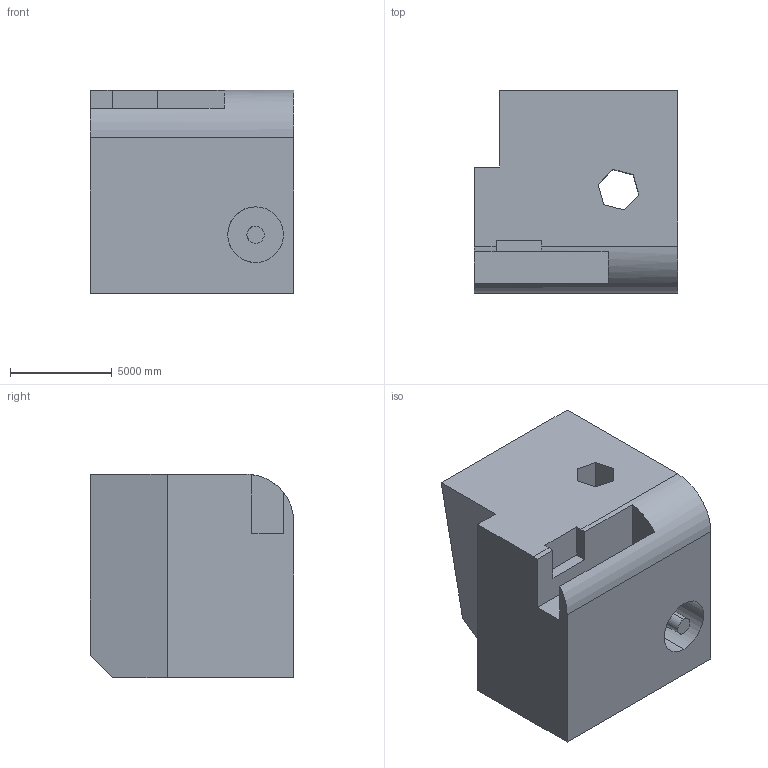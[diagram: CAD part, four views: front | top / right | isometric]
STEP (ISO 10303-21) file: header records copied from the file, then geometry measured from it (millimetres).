
FILE_DESCRIPTION (( 'STEP AP203' ), '1' );
FILE_NAME ('1612.STEP', '2022-08-18T16:09:40', ( 'user' ), ( '' ), 'SwSTEP 2.0', 'SolidWorks 2021', '' );
FILE_SCHEMA (( 'CONFIG_CONTROL_DESIGN' ));
Length unit declared in the file: centimetre
Products named in the file (1): 1612
Bounding box: 10000 x 10000 x 10000 mm (x, y, z)
Volume: 805076685110.7 mm3; surface area: 741048269.4 mm2
Topology: 1 solids, 1 shells, 37 faces, 99 edges, 66 vertices
Faces by surface type: plane 31, cylinder 6
Entity records: 1232 total; most frequent: CARTESIAN_POINT 239, ORIENTED_EDGE 198, DIRECTION 177, EDGE_CURVE 99, VECTOR 73, LINE 73, VERTEX_POINT 66, AXIS2_PLACEMENT_3D 52
